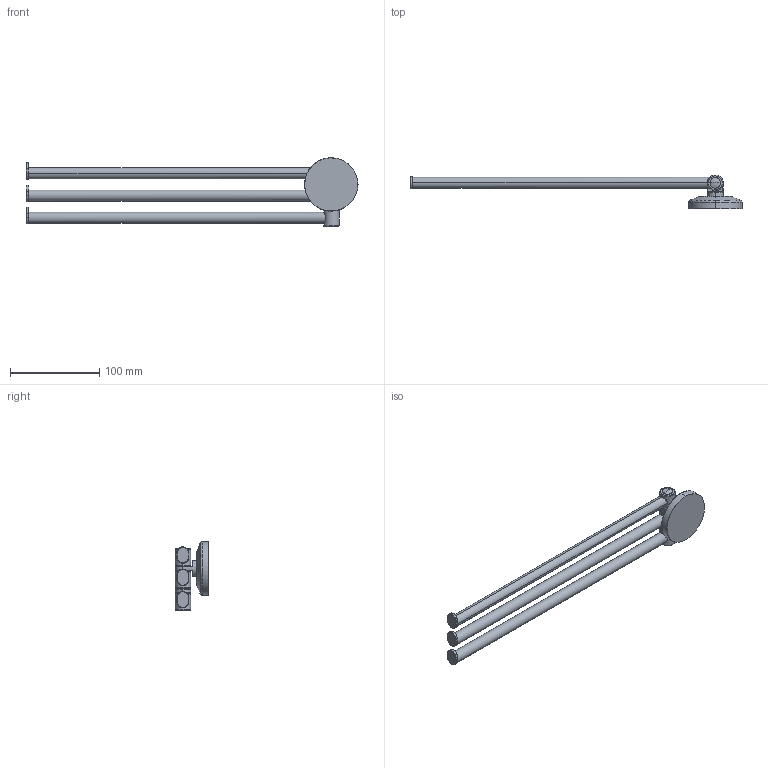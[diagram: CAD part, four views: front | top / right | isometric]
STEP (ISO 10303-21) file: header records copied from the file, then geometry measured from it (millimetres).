
FILE_DESCRIPTION(('THIS FILE CONTAINS SOME STEP INSTANCES'),'1');
FILE_NAME('sta_045.stp','2015-12-07T11:21:07',('UNDEFINED'),('UNDEFINED'),'T-FLEX CAD STEP converter','T-FLEX CAD','');
FILE_SCHEMA(('CONFIG_CONTROL_DESIGN'));
Length unit declared in the file: metre
Products named in the file (4): 3D 鐨飹懤艜_5; 3D 鐨飹懤艜_33; 3D 鐨飹懤艜_28; 3D 鐨飹懤艜_7
Bounding box: 373 x 38 x 77 mm (x, y, z)
Volume: 176619.7 mm3; surface area: 53462 mm2
Topology: 4 solids, 4 shells, 161 faces, 353 edges, 206 vertices
Faces by surface type: cone 40, cylinder 40, plane 39, torus 28, bspline 10, sphere 4
Entity records: 8236 total; most frequent: CARTESIAN_POINT 5064, ORIENTED_EDGE 698, DIRECTION 586, EDGE_CURVE 349, AXIS2_PLACEMENT_3D 228, VERTEX_POINT 206, EDGE_LOOP 171, ADVANCED_FACE 161
